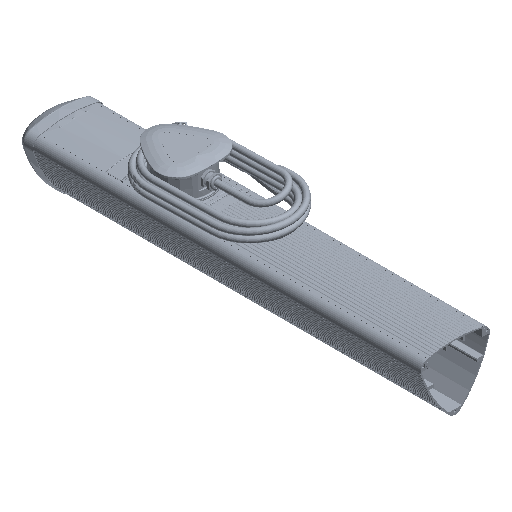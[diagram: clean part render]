
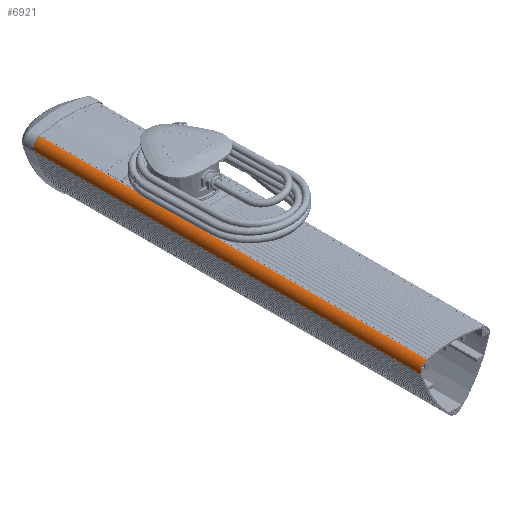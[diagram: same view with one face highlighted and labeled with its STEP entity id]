
A CAD part, isometric view. The second image highlights one B-rep face of the part: STEP entity #6921.
In plain terms, the highlighted cylindrical face has radius 25.4 mm (diameter 50.8 mm), a partial arc.
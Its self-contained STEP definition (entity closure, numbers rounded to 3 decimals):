
#806=CARTESIAN_POINT('',(-82.014,0.,47.351));
#807=DIRECTION('',(0.,1.,0.));
#808=DIRECTION('',(-0.967,0.,-0.256));
#809=AXIS2_PLACEMENT_3D('',#806,#807,#808);
#1932=DIRECTION('',(0.,1.,0.));
#1933=VECTOR('',#1932,1200.);
#1934=CARTESIAN_POINT('',(-88.323,0.,71.955));
#1935=LINE('',#1934,#1933);
#1936=DIRECTION('',(0.,1.,0.));
#1937=VECTOR('',#1936,1200.);
#1938=CARTESIAN_POINT('',(-106.571,0.,40.859));
#1939=LINE('',#1938,#1937);
#2900=CARTESIAN_POINT('',(-82.014,1200.,47.351));
#2901=DIRECTION('',(0.,1.,0.));
#2902=DIRECTION('',(-0.967,0.,-0.256));
#2903=AXIS2_PLACEMENT_3D('',#2900,#2901,#2902);
#4835=CARTESIAN_POINT('',(-106.571,0.,40.859));
#4836=VERTEX_POINT('',#4835);
#4837=CARTESIAN_POINT('',(-88.323,0.,71.955));
#4838=VERTEX_POINT('',#4837);
#5243=CARTESIAN_POINT('',(-106.571,1200.,40.859));
#5244=VERTEX_POINT('',#5243);
#5245=CARTESIAN_POINT('',(-88.323,1200.,71.955));
#5246=VERTEX_POINT('',#5245);
#6908=CARTESIAN_POINT('',(-82.014,0.,47.351));
#6909=DIRECTION('',(0.,1.,0.));
#6910=DIRECTION('',(1.,0.,0.));
#6911=AXIS2_PLACEMENT_3D('',#6908,#6909,#6910);
#6912=CYLINDRICAL_SURFACE('',#6911,25.4);
#6913=ORIENTED_EDGE('',*,*,#5794,.F.);
#6915=ORIENTED_EDGE('',*,*,#6914,.T.);
#6917=ORIENTED_EDGE('',*,*,#6916,.T.);
#6918=ORIENTED_EDGE('',*,*,#6900,.F.);
#6919=EDGE_LOOP('',(#6913,#6915,#6917,#6918));
#6920=FACE_OUTER_BOUND('',#6919,.F.);
#6921=ADVANCED_FACE('',(#6920),#6912,.T.);
#810=CIRCLE('',#809,25.4);
#2904=CIRCLE('',#2903,25.4);
#5794=EDGE_CURVE('',#4836,#4838,#810,.T.);
#6900=EDGE_CURVE('',#4838,#5246,#1935,.T.);
#6914=EDGE_CURVE('',#4836,#5244,#1939,.T.);
#6916=EDGE_CURVE('',#5244,#5246,#2904,.T.);
